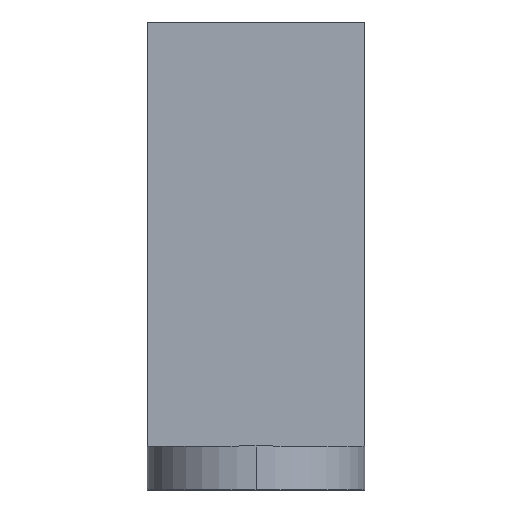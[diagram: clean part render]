
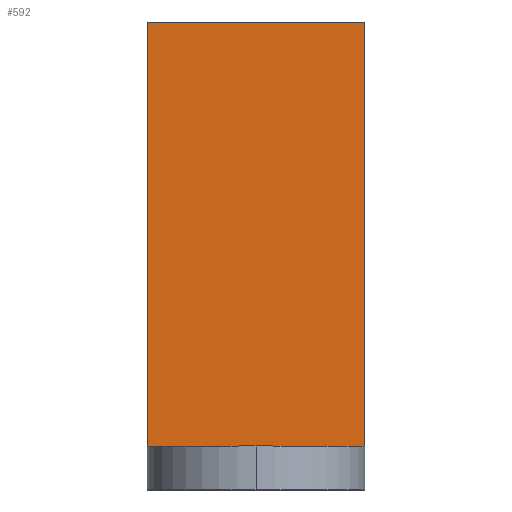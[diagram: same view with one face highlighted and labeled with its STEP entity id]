
A CAD part, top view. The second image highlights one B-rep face of the part: STEP entity #592.
In plain terms, the highlighted planar face has unit normal (0, 0, 1).
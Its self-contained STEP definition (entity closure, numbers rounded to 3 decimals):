
#6 = ORIENTED_EDGE ( 'NONE', *, *, #734, .T. ) ;
#43 = CARTESIAN_POINT ( 'NONE',  ( 100., 20., -105. ) ) ;
#73 = LINE ( 'NONE', #439, #323 ) ;
#76 = VERTEX_POINT ( 'NONE', #496 ) ;
#104 = ORIENTED_EDGE ( 'NONE', *, *, #400, .F. ) ;
#109 = DIRECTION ( 'NONE',  ( -1., 0., 0. ) ) ;
#164 = VECTOR ( 'NONE', #109, 1000. ) ;
#176 = AXIS2_PLACEMENT_3D ( 'NONE', #560, #673, #182 ) ;
#182 = DIRECTION ( 'NONE',  ( 0., 1., 0. ) ) ;
#193 = DIRECTION ( 'NONE',  ( 0., -1., 0. ) ) ;
#211 = VERTEX_POINT ( 'NONE', #512 ) ;
#276 = VERTEX_POINT ( 'NONE', #43 ) ;
#279 = VECTOR ( 'NONE', #321, 1000. ) ;
#304 = DIRECTION ( 'NONE',  ( 0., -1., 0. ) ) ;
#312 = LINE ( 'NONE', #314, #279 ) ;
#314 = CARTESIAN_POINT ( 'NONE',  ( 100., 215., -105. ) ) ;
#321 = DIRECTION ( 'NONE',  ( -1., 0., 0. ) ) ;
#323 = VECTOR ( 'NONE', #304, 1000. ) ;
#332 = VECTOR ( 'NONE', #193, 1000. ) ;
#367 = PLANE ( 'NONE',  #176 ) ;
#369 = CARTESIAN_POINT ( 'NONE',  ( 0., 215., -105. ) ) ;
#400 = EDGE_CURVE ( 'NONE', #276, #211, #667, .T. ) ;
#404 = FACE_OUTER_BOUND ( 'NONE', #465, .T. ) ;
#405 = CARTESIAN_POINT ( 'NONE',  ( 100., 20., -105. ) ) ;
#439 = CARTESIAN_POINT ( 'NONE',  ( 100., 215., -105. ) ) ;
#465 = EDGE_LOOP ( 'NONE', ( #630, #104, #725, #6 ) ) ;
#496 = CARTESIAN_POINT ( 'NONE',  ( 100., 215., -105. ) ) ;
#512 = CARTESIAN_POINT ( 'NONE',  ( 0., 20., -105. ) ) ;
#518 = LINE ( 'NONE', #751, #332 ) ;
#560 = CARTESIAN_POINT ( 'NONE',  ( 100., 215., -105. ) ) ;
#566 = VERTEX_POINT ( 'NONE', #369 ) ;
#592 = ADVANCED_FACE ( 'NONE', ( #404 ), #367, .F. ) ;
#630 = ORIENTED_EDGE ( 'NONE', *, *, #727, .T. ) ;
#639 = EDGE_CURVE ( 'NONE', #76, #276, #73, .T. ) ;
#667 = LINE ( 'NONE', #405, #164 ) ;
#673 = DIRECTION ( 'NONE',  ( 0., 0., -1. ) ) ;
#725 = ORIENTED_EDGE ( 'NONE', *, *, #639, .F. ) ;
#727 = EDGE_CURVE ( 'NONE', #566, #211, #518, .T. ) ;
#734 = EDGE_CURVE ( 'NONE', #76, #566, #312, .T. ) ;
#751 = CARTESIAN_POINT ( 'NONE',  ( 0., 215., -105. ) ) ;
